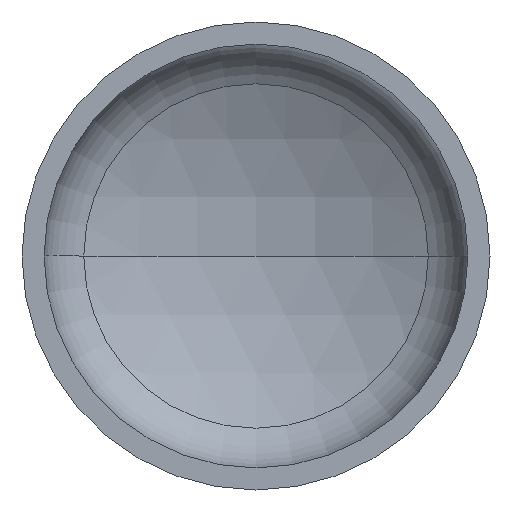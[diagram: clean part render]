
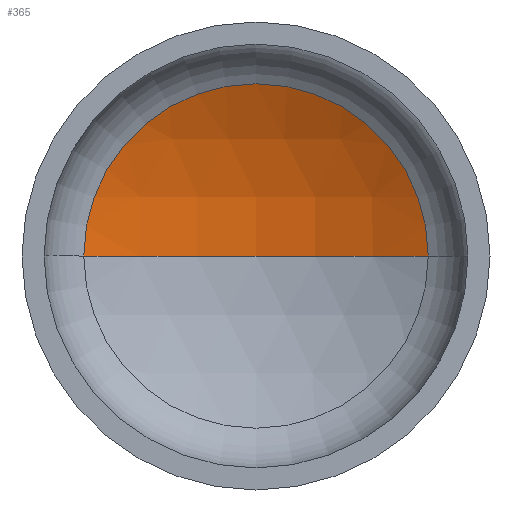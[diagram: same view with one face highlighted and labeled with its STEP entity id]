
A CAD part, front view. The second image highlights one B-rep face of the part: STEP entity #365.
In plain terms, the highlighted spherical face has radius 560 mm.
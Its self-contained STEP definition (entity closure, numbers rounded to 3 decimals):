
#3 = DIRECTION ( 'NONE',  ( 1., 0., 0. ) ) ;
#5 = AXIS2_PLACEMENT_3D ( 'NONE', #286, #346, #151 ) ;
#6 = AXIS2_PLACEMENT_3D ( 'NONE', #364, #288, #228 ) ;
#8 = ORIENTED_EDGE ( 'NONE', *, *, #96, .T. ) ;
#15 = CARTESIAN_POINT ( 'NONE',  ( -257.6, 197.671, 0. ) ) ;
#17 = EDGE_LOOP ( 'NONE', ( #83, #59, #8 ) ) ;
#42 = AXIS2_PLACEMENT_3D ( 'NONE', #348, #203, #3 ) ;
#59 = ORIENTED_EDGE ( 'NONE', *, *, #329, .T. ) ;
#67 = VERTEX_POINT ( 'NONE', #284 ) ;
#83 = ORIENTED_EDGE ( 'NONE', *, *, #332, .F. ) ;
#96 = EDGE_CURVE ( 'NONE', #67, #115, #191, .T. ) ;
#115 = VERTEX_POINT ( 'NONE', #15 ) ;
#151 = DIRECTION ( 'NONE',  ( 1., 0., 0. ) ) ;
#161 = DIRECTION ( 'NONE',  ( 0., 0., -1. ) ) ;
#189 = CARTESIAN_POINT ( 'NONE',  ( 0., 260.436, 0. ) ) ;
#191 = CIRCLE ( 'NONE', #42, 257.6 ) ;
#203 = DIRECTION ( 'NONE',  ( 0., -1., 0. ) ) ;
#224 = CIRCLE ( 'NONE', #6, 560. ) ;
#228 = DIRECTION ( 'NONE',  ( -1., 0., 0. ) ) ;
#266 = SPHERICAL_SURFACE ( 'NONE', #397, 560. ) ;
#269 = VERTEX_POINT ( 'NONE', #189 ) ;
#284 = CARTESIAN_POINT ( 'NONE',  ( 257.6, 197.671, 0. ) ) ;
#286 = CARTESIAN_POINT ( 'NONE',  ( 0., -299.564, 0. ) ) ;
#288 = DIRECTION ( 'NONE',  ( 0., 0., -1. ) ) ;
#327 = DIRECTION ( 'NONE',  ( -1., 0., 0. ) ) ;
#329 = EDGE_CURVE ( 'NONE', #269, #67, #224, .T. ) ;
#332 = EDGE_CURVE ( 'NONE', #269, #115, #401, .T. ) ;
#346 = DIRECTION ( 'NONE',  ( 0., 0., 1. ) ) ;
#348 = CARTESIAN_POINT ( 'NONE',  ( 0., 197.671, 0. ) ) ;
#364 = CARTESIAN_POINT ( 'NONE',  ( 0., -299.564, 0. ) ) ;
#365 = ADVANCED_FACE ( 'NONE', ( #386 ), #266, .F. ) ;
#386 = FACE_OUTER_BOUND ( 'NONE', #17, .T. ) ;
#397 = AXIS2_PLACEMENT_3D ( 'NONE', #407, #161, #327 ) ;
#401 = CIRCLE ( 'NONE', #5, 560. ) ;
#407 = CARTESIAN_POINT ( 'NONE',  ( 0., -299.564, 0. ) ) ;
